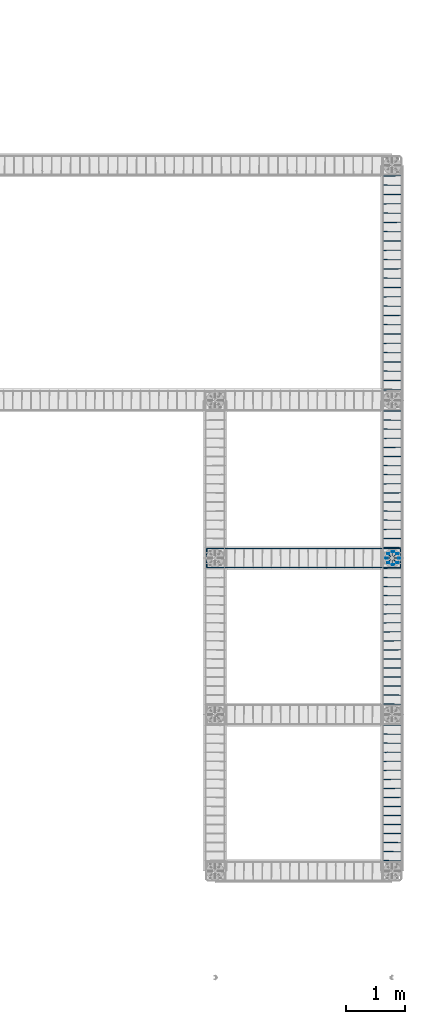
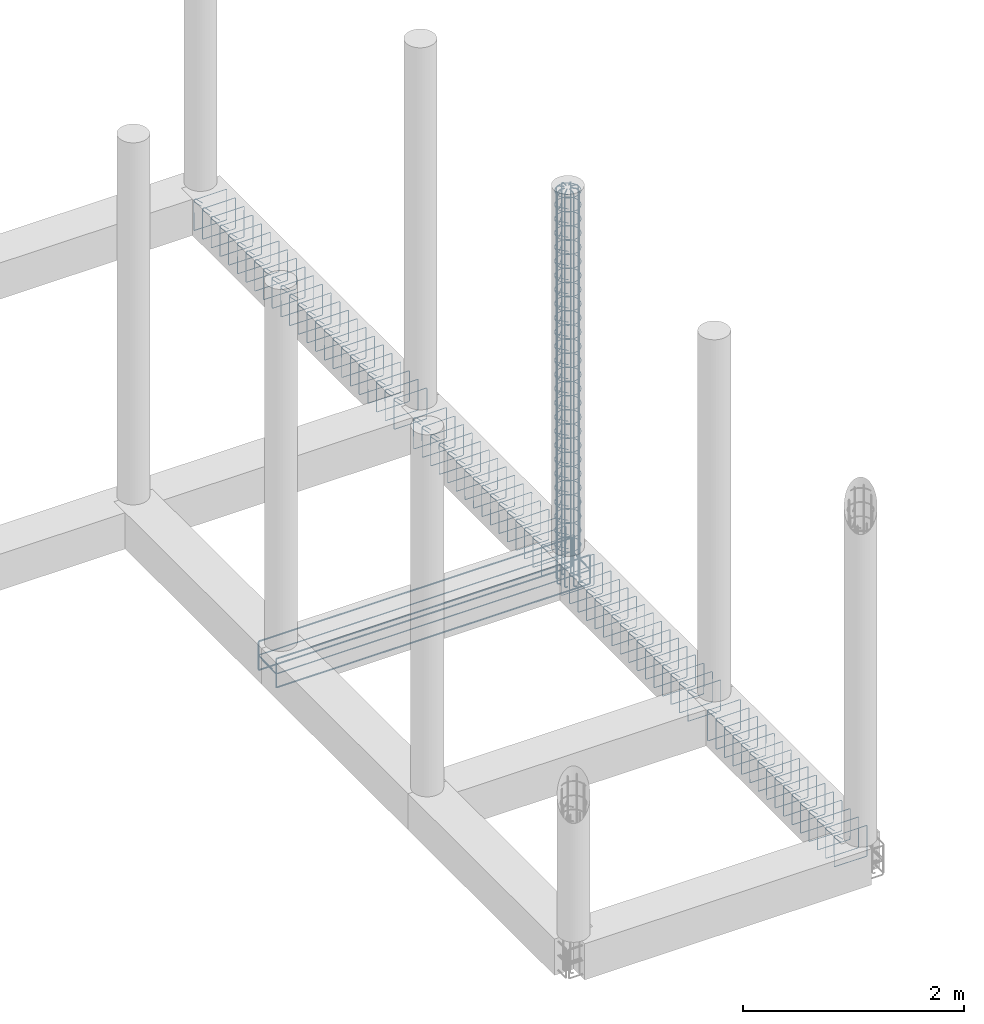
# One storey, part 8 of 20: 7 reinforcing bars.
"""IFC4 building model written with IfcOpenShell, lengths in metres."""

from ifc_helpers import new_model, entity, si_unit, origin_with_axes, place, context, project, spatial, source, transform, mapped, element, save


model = new_model("IFC4")

# Units and contexts
model_context = context("Model", 3, precision=1e-05, world=origin_with_axes())
ifc_project = project(units=[si_unit("LENGTHUNIT", "METRE"), si_unit("AREAUNIT", "SQUARE_METRE"), si_unit("VOLUMEUNIT", "CUBIC_METRE"), si_unit("MASSUNIT", "GRAM", prefix="KILO"), si_unit("TIMEUNIT", "SECOND"), si_unit("PLANEANGLEUNIT", "RADIAN"), si_unit("SOLIDANGLEUNIT", "STERADIAN"), si_unit("THERMODYNAMICTEMPERATUREUNIT", "DEGREE_CELSIUS")], contexts=[model_context])

# Site, building, storey
placement_1 = place(None, origin_with_axes())
site = spatial("IfcSite", under=ifc_project, at=placement_1, Name="Italia", CompositionType="ELEMENT")
building = spatial("IfcBuilding", under=site, at=placement_1, Name="Tettoia", CompositionType="ELEMENT")
storey = spatial("IfcBuildingStorey", under=building, at=placement_1, Name="Storey 0", CompositionType="ELEMENT", Elevation=0.0)

# Reinforcing bars
shared_shape_1 = source(origin_with_axes(), model_context, "Body", "AdvancedSweptSolid", [
    entity("IfcSweptDiskSolid", entity("IfcIndexedPolyCurve", entity("IfcCartesianPointList3D", [[11.211, 7.29605, -0.375], [11.1971, 7.29787, -0.375], [11.191, 7.29869, -0.373761], [11.1857, 7.29938, -0.370231], [11.1822, 7.29984, -0.364948], [11.181, 7.3, -0.358717], [11.181, 7.3, 0.5725]]), [entity("IfcLineIndex", [1, 2]), entity("IfcLineIndex", [2, 3]), entity("IfcLineIndex", [3, 4]), entity("IfcLineIndex", [4, 5]), entity("IfcLineIndex", [5, 6]), entity("IfcLineIndex", [6, 7])], False), 0.007),
])
placement_2 = place(placement_1, origin_with_axes())
reinforcing_bar_1_placement = place(placement_2, origin_with_axes())
element("IfcReinforcingBar", 1, at=reinforcing_bar_1_placement, inside=storey, BarLength=0.97063, CrossSectionArea=0.00015394, NominalDiameter=0.014, context=model_context, shape_type="MappedRepresentation", body=[
    mapped(shared_shape_1, transform((0.218, 0.0, 0.0), x_axis=(1.0, 0.0, 0.0), y_axis=(0.0, 1.0, 0.0), z_axis=(0.0, 0.0, 1.0), scale=1.0)),
    mapped(shared_shape_1, transform((0.0319262, -0.077075, 0.0), x_axis=(1.0, 0.0, 0.0), y_axis=(0.0, 1.0, 0.0), z_axis=(0.0, 0.0, 1.0), scale=1.0)),
    mapped(shared_shape_1, transform((0.109, -0.109, 0.0), x_axis=(1.0, 0.0, 0.0), y_axis=(0.0, 1.0, 0.0), z_axis=(0.0, 0.0, 1.0), scale=1.0)),
    mapped(shared_shape_1, transform((0.18614, -0.0771742, 0.0), x_axis=(1.0, 0.0, 0.0), y_axis=(0.0, 1.0, 0.0), z_axis=(0.0, 0.0, 1.0), scale=1.0)),
    mapped(shared_shape_1, transform((0.0, 0.0, 0.0), x_axis=(1.0, 0.0, 0.0), y_axis=(0.0, 1.0, 0.0), z_axis=(0.0, 0.0, 1.0), scale=1.0)),
    mapped(shared_shape_1, transform((0.031991, 0.0769753, 0.0), x_axis=(1.0, 0.0, 0.0), y_axis=(0.0, 1.0, 0.0), z_axis=(0.0, 0.0, 1.0), scale=1.0)),
    mapped(shared_shape_1, transform((0.108934, 0.1091, 0.0), x_axis=(1.0, 0.0, 0.0), y_axis=(0.0, 1.0, 0.0), z_axis=(0.0, 0.0, 1.0), scale=1.0)),
    mapped(shared_shape_1, transform((0.18614, 0.0769753, 0.0), x_axis=(1.0, 0.0, 0.0), y_axis=(0.0, 1.0, 0.0), z_axis=(0.0, 0.0, 1.0), scale=1.0)),
])
shared_shape_2 = source(origin_with_axes(), model_context, "Body", "AdvancedSweptSolid", [
    entity("IfcSweptDiskSolid", entity("IfcIndexedPolyCurve", entity("IfcCartesianPointList3D", [[11.181, 7.3, 0.0], [11.181, 7.3, 3.94], [11.1837, 7.3, 3.95339], [11.1913, 7.3, 3.96475], [11.2026, 7.3, 3.97234], [11.216, 7.3, 3.975], [11.256, 7.3, 3.975]]), [entity("IfcLineIndex", [1, 2]), entity("IfcLineIndex", [2, 3]), entity("IfcLineIndex", [3, 4]), entity("IfcLineIndex", [4, 5]), entity("IfcLineIndex", [5, 6]), entity("IfcLineIndex", [6, 7])], False), 0.007),
])
reinforcing_bar_2_placement = place(placement_2, origin_with_axes())
element("IfcReinforcingBar", 2, at=reinforcing_bar_2_placement, inside=storey, BarLength=4.03463, CrossSectionArea=0.00015394, NominalDiameter=0.014, context=model_context, shape_type="MappedRepresentation", body=[
    mapped(shared_shape_2, transform((24.4351, 4.47858, 0.0), x_axis=(-0.707104, 0.70711, 0.0), y_axis=(-0.70711, -0.707104, 0.0), z_axis=(0.0, 0.0, 1.0), scale=1.0)),
    mapped(shared_shape_2, transform((22.58, 14.6, 0.0), x_axis=(-1.0, 0.0, 0.0), y_axis=(0.0, -1.0, 0.0), z_axis=(0.0, 0.0, 1.0), scale=1.0)),
    mapped(shared_shape_2, transform((8.46864, -5.84511, 0.0), x_axis=(0.707107, 0.707107, 0.0), y_axis=(-0.707107, 0.707107, 0.0), z_axis=(0.0, 0.0, 1.0), scale=1.0)),
    mapped(shared_shape_2, transform((18.59, -3.99, 0.0), x_axis=(0.0, 1.0, 0.0), y_axis=(-1.0, 0.0, 0.0), z_axis=(0.0, 0.0, 1.0), scale=1.0)),
    mapped(shared_shape_2, transform((-1.85511, 10.1214, 0.0), x_axis=(0.707107, -0.707107, 0.0), y_axis=(0.707107, 0.707107, 0.0), z_axis=(0.0, 0.0, 1.0), scale=1.0)),
    mapped(shared_shape_2, transform((0.0, 0.0, 0.0), x_axis=(1.0, 0.0, 0.0), y_axis=(0.0, 1.0, 0.0), z_axis=(0.0, 0.0, 1.0), scale=1.0)),
    mapped(shared_shape_2, transform((14.1114, 20.4451, 0.0), x_axis=(-0.707107, -0.707107, 0.0), y_axis=(0.707107, -0.707107, 0.0), z_axis=(0.0, 0.0, 1.0), scale=1.0)),
    mapped(shared_shape_2, transform((3.99, 18.59, 0.0), x_axis=(0.0, -1.0, 0.0), y_axis=(1.0, 0.0, 0.0), z_axis=(0.0, 0.0, 1.0), scale=1.0)),
])
shared_shape_3 = source(origin_with_axes(), model_context, "Body", "AdvancedSweptSolid", [
    entity("IfcSweptDiskSolid", entity("IfcIndexedPolyCurve", entity("IfcCartesianPointList3D", [[11.2591, 7.23856, 0.029], [11.1957, 7.31046, 0.029], [11.1888, 7.31383, 0.029], [11.182, 7.31426, 0.029], [11.1781, 7.31374, 0.029], [11.1747, 7.31178, 0.029], [11.1724, 7.30867, 0.029], [11.1714, 7.3049, 0.029], [11.1711, 7.30071, 0.029], [11.1711, 7.29929, 0.029], [11.1725, 7.28218, 0.029], [11.1727, 7.28063, 0.029], [11.1767, 7.26401, 0.029], [11.1772, 7.26252, 0.029], [11.1837, 7.24673, 0.029], [11.1844, 7.24533, 0.029], [11.1934, 7.23076, 0.029], [11.1943, 7.22949, 0.029], [11.2054, 7.21649, 0.029], [11.2065, 7.21538, 0.029], [11.2195, 7.20429, 0.029], [11.2208, 7.20336, 0.029], [11.2353, 7.19443, 0.029], [11.2367, 7.19372, 0.029], [11.2525, 7.18718, 0.029], [11.254, 7.1867, 0.029], [11.2706, 7.18271, 0.029], [11.2722, 7.18246, 0.029], [11.2892, 7.18112, 0.029], [11.2908, 7.18112, 0.029], [11.3078, 7.18246, 0.029], [11.3094, 7.18271, 0.029], [11.326, 7.1867, 0.029], [11.3275, 7.18718, 0.029], [11.3433, 7.19372, 0.029], [11.3447, 7.19443, 0.029], [11.3592, 7.20336, 0.029], [11.3605, 7.20429, 0.029], [11.3735, 7.21538, 0.029], [11.3746, 7.21649, 0.029], [11.3857, 7.22949, 0.029], [11.3866, 7.23076, 0.029], [11.3956, 7.24533, 0.029], [11.3963, 7.24673, 0.029], [11.4028, 7.26252, 0.029], [11.4033, 7.26401, 0.029], [11.4073, 7.28063, 0.029], [11.4075, 7.28218, 0.029], [11.4089, 7.29922, 0.029], [11.4089, 7.30079, 0.029], [11.4075, 7.31782, 0.029], [11.4073, 7.31937, 0.029], [11.4033, 7.33599, 0.029], [11.4028, 7.33748, 0.029], [11.3963, 7.35327, 0.029], [11.3956, 7.35467, 0.029], [11.3866, 7.36924, 0.029], [11.3857, 7.37051, 0.029], [11.3746, 7.38351, 0.029], [11.3735, 7.38462, 0.029], [11.3605, 7.39572, 0.029], [11.3592, 7.39664, 0.029], [11.3447, 7.40557, 0.029], [11.3433, 7.40628, 0.029], [11.3275, 7.41282, 0.029], [11.326, 7.4133, 0.029], [11.3094, 7.41729, 0.029], [11.3078, 7.41754, 0.029], [11.2908, 7.41888, 0.029], [11.2892, 7.41888, 0.029], [11.2722, 7.41754, 0.029], [11.2706, 7.41729, 0.029], [11.254, 7.4133, 0.029], [11.2525, 7.41282, 0.029], [11.2367, 7.40628, 0.029], [11.2353, 7.40557, 0.029], [11.2208, 7.39664, 0.029], [11.2195, 7.39572, 0.029], [11.2065, 7.38462, 0.029], [11.2054, 7.38351, 0.029], [11.1943, 7.37051, 0.029], [11.1934, 7.36924, 0.029], [11.1844, 7.35467, 0.029], [11.1837, 7.35327, 0.029], [11.1772, 7.33748, 0.029], [11.1767, 7.33599, 0.029], [11.1727, 7.31937, 0.029], [11.1725, 7.31782, 0.029], [11.1711, 7.30071, 0.029], [11.1711, 7.29929, 0.029], [11.1714, 7.2951, 0.029], [11.1724, 7.29133, 0.029], [11.1747, 7.28822, 0.029], [11.1781, 7.28626, 0.029], [11.182, 7.28574, 0.029], [11.1888, 7.28617, 0.029], [11.1957, 7.28954, 0.029], [11.2591, 7.36144, 0.029]]), [entity("IfcLineIndex", [1, 2]), entity("IfcLineIndex", [2, 3]), entity("IfcLineIndex", [3, 4]), entity("IfcLineIndex", [4, 5]), entity("IfcLineIndex", [5, 6]), entity("IfcLineIndex", [6, 7]), entity("IfcLineIndex", [7, 8]), entity("IfcLineIndex", [8, 9]), entity("IfcLineIndex", [9, 10]), entity("IfcLineIndex", [10, 11]), entity("IfcLineIndex", [11, 12]), entity("IfcLineIndex", [12, 13]), entity("IfcLineIndex", [13, 14]), entity("IfcLineIndex", [14, 15]), entity("IfcLineIndex", [15, 16]), entity("IfcLineIndex", [16, 17]), entity("IfcLineIndex", [17, 18]), entity("IfcLineIndex", [18, 19]), entity("IfcLineIndex", [19, 20]), entity("IfcLineIndex", [20, 21]), entity("IfcLineIndex", [21, 22]), entity("IfcLineIndex", [22, 23]), entity("IfcLineIndex", [23, 24]), entity("IfcLineIndex", [24, 25]), entity("IfcLineIndex", [25, 26]), entity("IfcLineIndex", [26, 27]), entity("IfcLineIndex", [27, 28]), entity("IfcLineIndex", [28, 29]), entity("IfcLineIndex", [29, 30]), entity("IfcLineIndex", [30, 31]), entity("IfcLineIndex", [31, 32]), entity("IfcLineIndex", [32, 33]), entity("IfcLineIndex", [33, 34]), entity("IfcLineIndex", [34, 35]), entity("IfcLineIndex", [35, 36]), entity("IfcLineIndex", [36, 37]), entity("IfcLineIndex", [37, 38]), entity("IfcLineIndex", [38, 39]), entity("IfcLineIndex", [39, 40]), entity("IfcLineIndex", [40, 41]), entity("IfcLineIndex", [41, 42]), entity("IfcLineIndex", [42, 43]), entity("IfcLineIndex", [43, 44]), entity("IfcLineIndex", [44, 45]), entity("IfcLineIndex", [45, 46]), entity("IfcLineIndex", [46, 47]), entity("IfcLineIndex", [47, 48]), entity("IfcLineIndex", [48, 49]), entity("IfcLineIndex", [49, 50]), entity("IfcLineIndex", [50, 51]), entity("IfcLineIndex", [51, 52]), entity("IfcLineIndex", [52, 53]), entity("IfcLineIndex", [53, 54]), entity("IfcLineIndex", [54, 55]), entity("IfcLineIndex", [55, 56]), entity("IfcLineIndex", [56, 57]), entity("IfcLineIndex", [57, 58]), entity("IfcLineIndex", [58, 59]), entity("IfcLineIndex", [59, 60]), entity("IfcLineIndex", [60, 61]), entity("IfcLineIndex", [61, 62]), entity("IfcLineIndex", [62, 63]), entity("IfcLineIndex", [63, 64]), entity("IfcLineIndex", [64, 65]), entity("IfcLineIndex", [65, 66]), entity("IfcLineIndex", [66, 67]), entity("IfcLineIndex", [67, 68]), entity("IfcLineIndex", [68, 69]), entity("IfcLineIndex", [69, 70]), entity("IfcLineIndex", [70, 71]), entity("IfcLineIndex", [71, 72]), entity("IfcLineIndex", [72, 73]), entity("IfcLineIndex", [73, 74]), entity("IfcLineIndex", [74, 75]), entity("IfcLineIndex", [75, 76]), entity("IfcLineIndex", [76, 77]), entity("IfcLineIndex", [77, 78]), entity("IfcLineIndex", [78, 79]), entity("IfcLineIndex", [79, 80]), entity("IfcLineIndex", [80, 81]), entity("IfcLineIndex", [81, 82]), entity("IfcLineIndex", [82, 83]), entity("IfcLineIndex", [83, 84]), entity("IfcLineIndex", [84, 85]), entity("IfcLineIndex", [85, 86]), entity("IfcLineIndex", [86, 87]), entity("IfcLineIndex", [87, 88]), entity("IfcLineIndex", [88, 89]), entity("IfcLineIndex", [89, 90]), entity("IfcLineIndex", [90, 91]), entity("IfcLineIndex", [91, 92]), entity("IfcLineIndex", [92, 93]), entity("IfcLineIndex", [93, 94]), entity("IfcLineIndex", [94, 95]), entity("IfcLineIndex", [95, 96]), entity("IfcLineIndex", [96, 97]), entity("IfcLineIndex", [97, 98])], False), 0.004),
])
reinforcing_bar_3_placement = place(placement_2, origin_with_axes())
element("IfcReinforcingBar", 3, at=reinforcing_bar_3_placement, inside=storey, BarLength=1.00815, CrossSectionArea=5.0265e-05, NominalDiameter=0.008, context=model_context, shape_type="MappedRepresentation", body=[
    mapped(shared_shape_3, transform((0.0, 0.0, 1.8768), x_axis=(1.0, 0.0, 0.0), y_axis=(0.0, 1.0, 0.0), z_axis=(0.0, 0.0, 1.0), scale=1.0)),
    mapped(shared_shape_3, transform((0.0, 0.0, 1.7204), x_axis=(1.0, 0.0, 0.0), y_axis=(0.0, 1.0, 0.0), z_axis=(0.0, 0.0, 1.0), scale=1.0)),
    mapped(shared_shape_3, transform((0.0, 0.0, 1.0948), x_axis=(1.0, 0.0, 0.0), y_axis=(0.0, 1.0, 0.0), z_axis=(0.0, 0.0, 1.0), scale=1.0)),
    mapped(shared_shape_3, transform((0.0, 0.0, 1.4076), x_axis=(1.0, 0.0, 0.0), y_axis=(0.0, 1.0, 0.0), z_axis=(0.0, 0.0, 1.0), scale=1.0)),
    mapped(shared_shape_3, transform((0.0, 0.0, 1.2512), x_axis=(1.0, 0.0, 0.0), y_axis=(0.0, 1.0, 0.0), z_axis=(0.0, 0.0, 1.0), scale=1.0)),
    mapped(shared_shape_3, transform((0.0, 0.0, 1.564), x_axis=(1.0, 0.0, 0.0), y_axis=(0.0, 1.0, 0.0), z_axis=(0.0, 0.0, 1.0), scale=1.0)),
    mapped(shared_shape_3, transform((0.0, 0.0, 0.9384), x_axis=(1.0, 0.0, 0.0), y_axis=(0.0, 1.0, 0.0), z_axis=(0.0, 0.0, 1.0), scale=1.0)),
    mapped(shared_shape_3, transform((0.0, 0.0, 0.782), x_axis=(1.0, 0.0, 0.0), y_axis=(0.0, 1.0, 0.0), z_axis=(0.0, 0.0, 1.0), scale=1.0)),
    mapped(shared_shape_3, transform((0.0, 0.0, 0.1564), x_axis=(1.0, 0.0, 0.0), y_axis=(0.0, 1.0, 0.0), z_axis=(0.0, 0.0, 1.0), scale=1.0)),
    mapped(shared_shape_3, transform((0.0, 0.0, 0.4692), x_axis=(1.0, 0.0, 0.0), y_axis=(0.0, 1.0, 0.0), z_axis=(0.0, 0.0, 1.0), scale=1.0)),
    mapped(shared_shape_3, transform((0.0, 0.0, 0.3128), x_axis=(1.0, 0.0, 0.0), y_axis=(0.0, 1.0, 0.0), z_axis=(0.0, 0.0, 1.0), scale=1.0)),
    mapped(shared_shape_3, transform((0.0, 0.0, 0.6256), x_axis=(1.0, 0.0, 0.0), y_axis=(0.0, 1.0, 0.0), z_axis=(0.0, 0.0, 1.0), scale=1.0)),
    mapped(shared_shape_3, transform((0.0, 0.0, 0.0), x_axis=(1.0, 0.0, 0.0), y_axis=(0.0, 1.0, 0.0), z_axis=(0.0, 0.0, 1.0), scale=1.0)),
    mapped(shared_shape_3, transform((0.0, 0.0, 3.91), x_axis=(1.0, 0.0, 0.0), y_axis=(0.0, 1.0, 0.0), z_axis=(0.0, 0.0, 1.0), scale=1.0)),
    mapped(shared_shape_3, transform((0.0, 0.0, 3.2844), x_axis=(1.0, 0.0, 0.0), y_axis=(0.0, 1.0, 0.0), z_axis=(0.0, 0.0, 1.0), scale=1.0)),
    mapped(shared_shape_3, transform((0.0, 0.0, 3.5972), x_axis=(1.0, 0.0, 0.0), y_axis=(0.0, 1.0, 0.0), z_axis=(0.0, 0.0, 1.0), scale=1.0)),
    mapped(shared_shape_3, transform((0.0, 0.0, 3.4408), x_axis=(1.0, 0.0, 0.0), y_axis=(0.0, 1.0, 0.0), z_axis=(0.0, 0.0, 1.0), scale=1.0)),
    mapped(shared_shape_3, transform((0.0, 0.0, 3.7536), x_axis=(1.0, 0.0, 0.0), y_axis=(0.0, 1.0, 0.0), z_axis=(0.0, 0.0, 1.0), scale=1.0)),
    mapped(shared_shape_3, transform((0.0, 0.0, 3.128), x_axis=(1.0, 0.0, 0.0), y_axis=(0.0, 1.0, 0.0), z_axis=(0.0, 0.0, 1.0), scale=1.0)),
    mapped(shared_shape_3, transform((0.0, 0.0, 2.9716), x_axis=(1.0, 0.0, 0.0), y_axis=(0.0, 1.0, 0.0), z_axis=(0.0, 0.0, 1.0), scale=1.0)),
    mapped(shared_shape_3, transform((0.0, 0.0, 2.346), x_axis=(1.0, 0.0, 0.0), y_axis=(0.0, 1.0, 0.0), z_axis=(0.0, 0.0, 1.0), scale=1.0)),
    mapped(shared_shape_3, transform((0.0, 0.0, 2.6588), x_axis=(1.0, 0.0, 0.0), y_axis=(0.0, 1.0, 0.0), z_axis=(0.0, 0.0, 1.0), scale=1.0)),
    mapped(shared_shape_3, transform((0.0, 0.0, 2.5024), x_axis=(1.0, 0.0, 0.0), y_axis=(0.0, 1.0, 0.0), z_axis=(0.0, 0.0, 1.0), scale=1.0)),
    mapped(shared_shape_3, transform((0.0, 0.0, 2.8152), x_axis=(1.0, 0.0, 0.0), y_axis=(0.0, 1.0, 0.0), z_axis=(0.0, 0.0, 1.0), scale=1.0)),
    mapped(shared_shape_3, transform((0.0, 0.0, 2.1896), x_axis=(1.0, 0.0, 0.0), y_axis=(0.0, 1.0, 0.0), z_axis=(0.0, 0.0, 1.0), scale=1.0)),
    mapped(shared_shape_3, transform((0.0, 0.0, 2.0332), x_axis=(1.0, 0.0, 0.0), y_axis=(0.0, 1.0, 0.0), z_axis=(0.0, 0.0, 1.0), scale=1.0)),
])
shared_shape_4 = source(origin_with_axes(), model_context, "Body", "AdvancedSweptSolid", [
    entity("IfcSweptDiskSolid", entity("IfcIndexedPolyCurve", entity("IfcCartesianPointList3D", [[8.15, 7.211, -0.194], [8.15, 7.451, -0.194], [8.15076, 7.45483, -0.194], [8.15293, 7.45807, -0.194], [8.15617, 7.46024, -0.194], [8.16, 7.461, -0.194], [11.42, 7.461, -0.194], [11.4238, 7.46024, -0.194], [11.4271, 7.45807, -0.194], [11.4292, 7.45483, -0.194], [11.43, 7.451, -0.194], [11.43, 7.211, -0.194]]), [entity("IfcLineIndex", [1, 2]), entity("IfcLineIndex", [2, 3]), entity("IfcLineIndex", [3, 4]), entity("IfcLineIndex", [4, 5]), entity("IfcLineIndex", [5, 6]), entity("IfcLineIndex", [6, 7]), entity("IfcLineIndex", [7, 8]), entity("IfcLineIndex", [8, 9]), entity("IfcLineIndex", [9, 10]), entity("IfcLineIndex", [10, 11]), entity("IfcLineIndex", [11, 12])], False), 0.006),
])
reinforcing_bar_4_placement = place(placement_2, origin_with_axes())
element("IfcReinforcingBar", 4, at=reinforcing_bar_4_placement, inside=storey, BarLength=3.77121, CrossSectionArea=0.0001131, NominalDiameter=0.012, context=model_context, shape_type="MappedRepresentation", body=[
    mapped(shared_shape_4, transform((0.0, 14.6, -0.4), x_axis=(1.0, 0.0, 0.0), y_axis=(0.0, -1.0, 0.0), z_axis=(0.0, 0.0, -1.0), scale=1.0)),
    mapped(shared_shape_4, transform((0.0, 0.0, 0.0), x_axis=(1.0, 0.0, 0.0), y_axis=(0.0, 1.0, 0.0), z_axis=(0.0, 0.0, 1.0), scale=1.0)),
])
shared_shape_5 = source(origin_with_axes(), model_context, "Body", "AdvancedSweptSolid", [
    entity("IfcSweptDiskSolid", entity("IfcIndexedPolyCurve", entity("IfcCartesianPointList3D", [[9.20727, 7.141, -0.359], [9.79, 7.141, -0.359], [11.29, 7.141, -0.359], [11.42, 7.141, -0.359], [11.4238, 7.141, -0.358239], [11.4271, 7.141, -0.356071], [11.4292, 7.141, -0.352827], [11.43, 7.141, -0.349], [11.43, 7.141, -0.109]]), [entity("IfcLineIndex", [1, 2]), entity("IfcLineIndex", [2, 3]), entity("IfcLineIndex", [3, 4]), entity("IfcLineIndex", [4, 5]), entity("IfcLineIndex", [5, 6]), entity("IfcLineIndex", [6, 7]), entity("IfcLineIndex", [7, 8]), entity("IfcLineIndex", [8, 9])], False), 0.008),
])
reinforcing_bar_5_placement = place(placement_2, origin_with_axes())
element("IfcReinforcingBar", 5, at=reinforcing_bar_5_placement, inside=storey, BarLength=2.46833, CrossSectionArea=0.00020106, NominalDiameter=0.016, context=model_context, shape_type="MappedRepresentation", body=[
    mapped(shared_shape_5, transform((0.0, 0.318, 0.0), x_axis=(1.0, 0.0, 0.0), y_axis=(0.0, 1.0, 0.0), z_axis=(0.0, 0.0, 1.0), scale=1.0)),
    mapped(shared_shape_5, transform((0.0, 0.0, 0.0), x_axis=(1.0, 0.0, 0.0), y_axis=(0.0, 1.0, 0.0), z_axis=(0.0, 0.0, 1.0), scale=1.0)),
    mapped(shared_shape_5, transform((0.0, 14.6, -0.4), x_axis=(1.0, 0.0, 0.0), y_axis=(0.0, -1.0, 0.0), z_axis=(0.0, 0.0, -1.0), scale=1.0)),
    mapped(shared_shape_5, transform((0.0, 14.282, -0.4), x_axis=(1.0, 0.0, 0.0), y_axis=(0.0, -1.0, 0.0), z_axis=(0.0, 0.0, -1.0), scale=1.0)),
])
shared_shape_6 = source(origin_with_axes(), model_context, "Body", "AdvancedSweptSolid", [
    entity("IfcSweptDiskSolid", entity("IfcIndexedPolyCurve", entity("IfcCartesianPointList3D", [[8.15, 7.141, -0.109], [8.15, 7.141, -0.349], [8.15076, 7.141, -0.352827], [8.15293, 7.141, -0.356071], [8.15617, 7.141, -0.358239], [8.16, 7.141, -0.359], [8.29, 7.141, -0.359], [9.79, 7.141, -0.359], [10.3727, 7.141, -0.359]]), [entity("IfcLineIndex", [1, 2]), entity("IfcLineIndex", [2, 3]), entity("IfcLineIndex", [3, 4]), entity("IfcLineIndex", [4, 5]), entity("IfcLineIndex", [5, 6]), entity("IfcLineIndex", [6, 7]), entity("IfcLineIndex", [7, 8]), entity("IfcLineIndex", [8, 9])], False), 0.008),
])
reinforcing_bar_6_placement = place(placement_2, origin_with_axes())
element("IfcReinforcingBar", 6, at=reinforcing_bar_6_placement, inside=storey, BarLength=2.46833, CrossSectionArea=0.00020106, NominalDiameter=0.016, context=model_context, shape_type="MappedRepresentation", body=[
    mapped(shared_shape_6, transform((0.0, 0.318001, 0.0), x_axis=(1.0, 0.0, 0.0), y_axis=(0.0, 1.0, 0.0), z_axis=(0.0, 0.0, 1.0), scale=1.0)),
    mapped(shared_shape_6, transform((0.0, 0.0, 0.0), x_axis=(1.0, 0.0, 0.0), y_axis=(0.0, 1.0, 0.0), z_axis=(0.0, 0.0, 1.0), scale=1.0)),
    mapped(shared_shape_6, transform((0.0, 14.6, -0.4), x_axis=(1.0, 0.0, 0.0), y_axis=(0.0, -1.0, 0.0), z_axis=(0.0, 0.0, -1.0), scale=1.0)),
    mapped(shared_shape_6, transform((0.0, 14.282, -0.4), x_axis=(1.0, 0.0, 0.0), y_axis=(0.0, -1.0, 0.0), z_axis=(0.0, 0.0, -1.0), scale=1.0)),
])
shared_shape_7 = source(origin_with_axes(), model_context, "Body", "AdvancedSweptSolid", [
    entity("IfcSweptDiskSolid", entity("IfcIndexedPolyCurve", entity("IfcCartesianPointList3D", [[11.1897, 2.175, -0.120711], [11.1219, 2.17556, -0.0529289], [11.119, 2.1756, -0.0458579], [11.119, 2.17564, -0.039], [11.1198, 2.17566, -0.0351732], [11.1219, 2.17569, -0.0319289], [11.1252, 2.17571, -0.0297612], [11.129, 2.17573, -0.029], [11.451, 2.1776, -0.029], [11.4548, 2.17762, -0.0297612], [11.4581, 2.17764, -0.0319289], [11.4602, 2.17767, -0.0351732], [11.461, 2.17769, -0.039], [11.461, 2.17956, -0.361], [11.4602, 2.17958, -0.364827], [11.4581, 2.1796, -0.368071], [11.4548, 2.17962, -0.370239], [11.451, 2.17965, -0.371], [11.129, 2.18151, -0.371], [11.1252, 2.18154, -0.370239], [11.1219, 2.18156, -0.368071], [11.1198, 2.18158, -0.364827], [11.119, 2.1816, -0.361], [11.119, 2.18347, -0.039], [11.1198, 2.18349, -0.0351732], [11.1219, 2.18352, -0.0319289], [11.1252, 2.18354, -0.0297612], [11.129, 2.18356, -0.029], [11.1359, 2.1836, -0.029], [11.1429, 2.18364, -0.0319289], [11.2107, 2.1842, -0.0997114]]), [entity("IfcLineIndex", [1, 2]), entity("IfcLineIndex", [2, 3]), entity("IfcLineIndex", [3, 4]), entity("IfcLineIndex", [4, 5]), entity("IfcLineIndex", [5, 6]), entity("IfcLineIndex", [6, 7]), entity("IfcLineIndex", [7, 8]), entity("IfcLineIndex", [8, 9]), entity("IfcLineIndex", [9, 10]), entity("IfcLineIndex", [10, 11]), entity("IfcLineIndex", [11, 12]), entity("IfcLineIndex", [12, 13]), entity("IfcLineIndex", [13, 14]), entity("IfcLineIndex", [14, 15]), entity("IfcLineIndex", [15, 16]), entity("IfcLineIndex", [16, 17]), entity("IfcLineIndex", [17, 18]), entity("IfcLineIndex", [18, 19]), entity("IfcLineIndex", [19, 20]), entity("IfcLineIndex", [20, 21]), entity("IfcLineIndex", [21, 22]), entity("IfcLineIndex", [22, 23]), entity("IfcLineIndex", [23, 24]), entity("IfcLineIndex", [24, 25]), entity("IfcLineIndex", [25, 26]), entity("IfcLineIndex", [26, 27]), entity("IfcLineIndex", [27, 28]), entity("IfcLineIndex", [28, 29]), entity("IfcLineIndex", [29, 30]), entity("IfcLineIndex", [30, 31])], False), 0.004),
])
reinforcing_bar_7_placement = place(placement_2, origin_with_axes())
element("IfcReinforcingBar", 7, at=reinforcing_bar_7_placement, inside=storey, BarLength=1.5868, CrossSectionArea=5.0265e-05, NominalDiameter=0.008, context=model_context, shape_type="MappedRepresentation", body=[
    mapped(shared_shape_7, transform((-1.43051e-05, 3.87247, 0.0), x_axis=(1.0, 0.0, 0.0), y_axis=(0.0, 1.0, 0.0), z_axis=(0.0, 0.0, 1.0), scale=1.0)),
    mapped(shared_shape_7, transform((-1.43051e-05, 3.71967, 0.0), x_axis=(1.0, 0.0, 0.0), y_axis=(0.0, 1.0, 0.0), z_axis=(0.0, 0.0, 1.0), scale=1.0)),
    mapped(shared_shape_7, transform((-1.43051e-05, 4.17807, 0.0), x_axis=(1.0, 0.0, 0.0), y_axis=(0.0, 1.0, 0.0), z_axis=(0.0, 0.0, 1.0), scale=1.0)),
    mapped(shared_shape_7, transform((-1.43051e-05, 4.02527, 0.0), x_axis=(1.0, 0.0, 0.0), y_axis=(0.0, 1.0, 0.0), z_axis=(0.0, 0.0, 1.0), scale=1.0)),
    mapped(shared_shape_7, transform((-1.43051e-05, 3.26127, 0.0), x_axis=(1.0, 0.0, 0.0), y_axis=(0.0, 1.0, 0.0), z_axis=(0.0, 0.0, 1.0), scale=1.0)),
    mapped(shared_shape_7, transform((-1.43051e-05, 3.10847, 0.0), x_axis=(1.0, 0.0, 0.0), y_axis=(0.0, 1.0, 0.0), z_axis=(0.0, 0.0, 1.0), scale=1.0)),
    mapped(shared_shape_7, transform((-1.43051e-05, 3.56687, 0.0), x_axis=(1.0, 0.0, 0.0), y_axis=(0.0, 1.0, 0.0), z_axis=(0.0, 0.0, 1.0), scale=1.0)),
    mapped(shared_shape_7, transform((-1.43051e-05, 3.41407, 0.0), x_axis=(1.0, 0.0, 0.0), y_axis=(0.0, 1.0, 0.0), z_axis=(0.0, 0.0, 1.0), scale=1.0)),
    mapped(shared_shape_7, transform((-1.43051e-05, 5.60833, 0.0), x_axis=(1.0, 0.0, 0.0), y_axis=(0.0, 1.0, 0.0), z_axis=(0.0, 0.0, 1.0), scale=1.0)),
    mapped(shared_shape_7, transform((-1.43051e-05, 5.4542, 0.0), x_axis=(1.0, 0.0, 0.0), y_axis=(0.0, 1.0, 0.0), z_axis=(0.0, 0.0, 1.0), scale=1.0)),
    mapped(shared_shape_7, transform((-1.43051e-05, 2.95567, 0.0), x_axis=(1.0, 0.0, 0.0), y_axis=(0.0, 1.0, 0.0), z_axis=(0.0, 0.0, 1.0), scale=1.0)),
    mapped(shared_shape_7, transform((-1.43051e-05, 5.76247, 0.0), x_axis=(1.0, 0.0, 0.0), y_axis=(0.0, 1.0, 0.0), z_axis=(0.0, 0.0, 1.0), scale=1.0)),
    mapped(shared_shape_7, transform((-1.43051e-05, 4.78927, 0.0), x_axis=(1.0, 0.0, 0.0), y_axis=(0.0, 1.0, 0.0), z_axis=(0.0, 0.0, 1.0), scale=1.0)),
    mapped(shared_shape_7, transform((-1.43051e-05, 4.63647, 0.0), x_axis=(1.0, 0.0, 0.0), y_axis=(0.0, 1.0, 0.0), z_axis=(0.0, 0.0, 1.0), scale=1.0)),
    mapped(shared_shape_7, transform((-1.43051e-05, 5.30007, 0.0), x_axis=(1.0, 0.0, 0.0), y_axis=(0.0, 1.0, 0.0), z_axis=(0.0, 0.0, 1.0), scale=1.0)),
    mapped(shared_shape_7, transform((-1.43051e-05, 4.94207, 0.0), x_axis=(1.0, 0.0, 0.0), y_axis=(0.0, 1.0, 0.0), z_axis=(0.0, 0.0, 1.0), scale=1.0)),
    mapped(shared_shape_7, transform((0.0, 1.2224, 0.0), x_axis=(1.0, 0.0, 0.0), y_axis=(0.0, 1.0, 0.0), z_axis=(0.0, 0.0, 1.0), scale=1.0)),
    mapped(shared_shape_7, transform((0.0, 1.0696, 0.0), x_axis=(1.0, 0.0, 0.0), y_axis=(0.0, 1.0, 0.0), z_axis=(0.0, 0.0, 1.0), scale=1.0)),
    mapped(shared_shape_7, transform((-1.43051e-05, 4.48367, 0.0), x_axis=(1.0, 0.0, 0.0), y_axis=(0.0, 1.0, 0.0), z_axis=(0.0, 0.0, 1.0), scale=1.0)),
    mapped(shared_shape_7, transform((-1.43051e-05, 4.33087, 0.0), x_axis=(1.0, 0.0, 0.0), y_axis=(0.0, 1.0, 0.0), z_axis=(0.0, 0.0, 1.0), scale=1.0)),
    mapped(shared_shape_7, transform((0.0, 0.6112, 0.0), x_axis=(1.0, 0.0, 0.0), y_axis=(0.0, 1.0, 0.0), z_axis=(0.0, 0.0, 1.0), scale=1.0)),
    mapped(shared_shape_7, transform((0.0, 0.4584, 0.0), x_axis=(1.0, 0.0, 0.0), y_axis=(0.0, 1.0, 0.0), z_axis=(0.0, 0.0, 1.0), scale=1.0)),
    mapped(shared_shape_7, transform((0.0, 0.9168, 0.0), x_axis=(1.0, 0.0, 0.0), y_axis=(0.0, 1.0, 0.0), z_axis=(0.0, 0.0, 1.0), scale=1.0)),
    mapped(shared_shape_7, transform((0.0, 0.764, 0.0), x_axis=(1.0, 0.0, 0.0), y_axis=(0.0, 1.0, 0.0), z_axis=(0.0, 0.0, 1.0), scale=1.0)),
    mapped(shared_shape_7, transform((0.0, 0.0, 0.0), x_axis=(1.0, 0.0, 0.0), y_axis=(0.0, 1.0, 0.0), z_axis=(0.0, 0.0, 1.0), scale=1.0)),
    mapped(shared_shape_7, transform((-1.43051e-05, 2.80287, 0.0), x_axis=(1.0, 0.0, 0.0), y_axis=(0.0, 1.0, 0.0), z_axis=(0.0, 0.0, 1.0), scale=1.0)),
    mapped(shared_shape_7, transform((0.0, 0.305599, 0.0), x_axis=(1.0, 0.0, 0.0), y_axis=(0.0, 1.0, 0.0), z_axis=(0.0, 0.0, 1.0), scale=1.0)),
    mapped(shared_shape_7, transform((0.0, 0.1528, 0.0), x_axis=(1.0, 0.0, 0.0), y_axis=(0.0, 1.0, 0.0), z_axis=(0.0, 0.0, 1.0), scale=1.0)),
    mapped(shared_shape_7, transform((-1.43051e-05, 2.13927, 0.0), x_axis=(1.0, 0.0, 0.0), y_axis=(0.0, 1.0, 0.0), z_axis=(0.0, 0.0, 1.0), scale=1.0)),
    mapped(shared_shape_7, transform((-1.43051e-05, 1.98647, 0.0), x_axis=(1.0, 0.0, 0.0), y_axis=(0.0, 1.0, 0.0), z_axis=(0.0, 0.0, 1.0), scale=1.0)),
    mapped(shared_shape_7, transform((-1.43051e-05, 2.65007, 0.0), x_axis=(1.0, 0.0, 0.0), y_axis=(0.0, 1.0, 0.0), z_axis=(0.0, 0.0, 1.0), scale=1.0)),
    mapped(shared_shape_7, transform((-1.43051e-05, 2.29207, 0.0), x_axis=(1.0, 0.0, 0.0), y_axis=(0.0, 1.0, 0.0), z_axis=(0.0, 0.0, 1.0), scale=1.0)),
    mapped(shared_shape_7, transform((0.0, 1.528, 0.0), x_axis=(1.0, 0.0, 0.0), y_axis=(0.0, 1.0, 0.0), z_axis=(0.0, 0.0, 1.0), scale=1.0)),
    mapped(shared_shape_7, transform((0.0, 1.3752, 0.0), x_axis=(1.0, 0.0, 0.0), y_axis=(0.0, 1.0, 0.0), z_axis=(0.0, 0.0, 1.0), scale=1.0)),
    mapped(shared_shape_7, transform((-1.43051e-05, 1.83367, 0.0), x_axis=(1.0, 0.0, 0.0), y_axis=(0.0, 1.0, 0.0), z_axis=(0.0, 0.0, 1.0), scale=1.0)),
    mapped(shared_shape_7, transform((0.0, 1.6808, 0.0), x_axis=(1.0, 0.0, 0.0), y_axis=(0.0, 1.0, 0.0), z_axis=(0.0, 0.0, 1.0), scale=1.0)),
    mapped(shared_shape_7, transform((0.000288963, 9.85826, 0.000278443), x_axis=(1.0, 0.000133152, 0.0), y_axis=(-0.000133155, 1.0, -0.000122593), z_axis=(0.0, 0.000122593, 1.0), scale=1.0)),
    mapped(shared_shape_7, transform((0.000288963, 9.70079, 0.000278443), x_axis=(1.0, 0.000133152, 0.0), y_axis=(-0.000133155, 1.0, -0.000122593), z_axis=(0.0, 0.000122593, 1.0), scale=1.0)),
    mapped(shared_shape_7, transform((0.000288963, 10.1732, 0.000278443), x_axis=(1.0, 0.000133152, 0.0), y_axis=(-0.000133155, 1.0, -0.000122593), z_axis=(0.0, 0.000122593, 1.0), scale=1.0)),
    mapped(shared_shape_7, transform((0.000288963, 10.0157, 0.000278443), x_axis=(1.0, 0.000133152, 0.0), y_axis=(-0.000133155, 1.0, -0.000122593), z_axis=(0.0, 0.000122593, 1.0), scale=1.0)),
    mapped(shared_shape_7, transform((0.000288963, 9.22835, 0.000278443), x_axis=(1.0, 0.000133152, 0.0), y_axis=(-0.000133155, 1.0, -0.000122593), z_axis=(0.0, 0.000122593, 1.0), scale=1.0)),
    mapped(shared_shape_7, transform((0.000288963, 9.07087, 0.000278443), x_axis=(1.0, 0.000133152, 0.0), y_axis=(-0.000133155, 1.0, -0.000122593), z_axis=(0.0, 0.000122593, 1.0), scale=1.0)),
    mapped(shared_shape_7, transform((0.000288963, 9.54331, 0.000278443), x_axis=(1.0, 0.000133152, 0.0), y_axis=(-0.000133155, 1.0, -0.000122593), z_axis=(0.0, 0.000122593, 1.0), scale=1.0)),
    mapped(shared_shape_7, transform((0.000288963, 9.38583, 0.000278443), x_axis=(1.0, 0.000133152, 0.0), y_axis=(-0.000133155, 1.0, -0.000122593), z_axis=(0.0, 0.000122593, 1.0), scale=1.0)),
    mapped(shared_shape_7, transform((0.000288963, 11.433, 0.000278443), x_axis=(1.0, 0.000133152, 0.0), y_axis=(-0.000133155, 1.0, -0.000122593), z_axis=(0.0, 0.000122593, 1.0), scale=1.0)),
    mapped(shared_shape_7, transform((0.000288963, 11.2756, 0.000278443), x_axis=(1.0, 0.000133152, 0.0), y_axis=(-0.000133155, 1.0, -0.000122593), z_axis=(0.0, 0.000122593, 1.0), scale=1.0)),
    mapped(shared_shape_7, transform((0.000288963, 8.91339, 0.000278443), x_axis=(1.0, 0.000133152, 0.0), y_axis=(-0.000133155, 1.0, -0.000122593), z_axis=(0.0, 0.000122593, 1.0), scale=1.0)),
    mapped(shared_shape_7, transform((0.000288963, 11.5905, 0.000278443), x_axis=(1.0, 0.000133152, 0.0), y_axis=(-0.000133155, 1.0, -0.000122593), z_axis=(0.0, 0.000122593, 1.0), scale=1.0)),
    mapped(shared_shape_7, transform((0.000288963, 10.8031, 0.000278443), x_axis=(1.0, 0.000133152, 0.0), y_axis=(-0.000133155, 1.0, -0.000122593), z_axis=(0.0, 0.000122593, 1.0), scale=1.0)),
    mapped(shared_shape_7, transform((0.000288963, 10.6457, 0.000278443), x_axis=(1.0, 0.000133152, 0.0), y_axis=(-0.000133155, 1.0, -0.000122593), z_axis=(0.0, 0.000122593, 1.0), scale=1.0)),
    mapped(shared_shape_7, transform((0.000288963, 11.1181, 0.000278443), x_axis=(1.0, 0.000133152, 0.0), y_axis=(-0.000133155, 1.0, -0.000122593), z_axis=(0.0, 0.000122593, 1.0), scale=1.0)),
    mapped(shared_shape_7, transform((0.000288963, 10.9606, 0.000278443), x_axis=(1.0, 0.000133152, 0.0), y_axis=(-0.000133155, 1.0, -0.000122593), z_axis=(0.0, 0.000122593, 1.0), scale=1.0)),
    mapped(shared_shape_7, transform((0.000288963, 7.14812, 0.000278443), x_axis=(1.0, 0.000133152, 0.0), y_axis=(-0.000133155, 1.0, -0.000122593), z_axis=(0.0, 0.000122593, 1.0), scale=1.0)),
    mapped(shared_shape_7, transform((0.000288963, 6.99399, 0.000278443), x_axis=(1.0, 0.000133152, 0.0), y_axis=(-0.000133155, 1.0, -0.000122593), z_axis=(0.0, 0.000122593, 1.0), scale=1.0)),
    mapped(shared_shape_7, transform((0.000288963, 10.4882, 0.000278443), x_axis=(1.0, 0.000133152, 0.0), y_axis=(-0.000133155, 1.0, -0.000122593), z_axis=(0.0, 0.000122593, 1.0), scale=1.0)),
    mapped(shared_shape_7, transform((0.000288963, 10.3307, 0.000278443), x_axis=(1.0, 0.000133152, 0.0), y_axis=(-0.000133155, 1.0, -0.000122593), z_axis=(0.0, 0.000122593, 1.0), scale=1.0)),
    mapped(shared_shape_7, transform((0.000288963, 6.53159, 0.000278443), x_axis=(1.0, 0.000133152, 0.0), y_axis=(-0.000133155, 1.0, -0.000122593), z_axis=(0.0, 0.000122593, 1.0), scale=1.0)),
    mapped(shared_shape_7, transform((0.000288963, 6.37746, 0.000278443), x_axis=(1.0, 0.000133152, 0.0), y_axis=(-0.000133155, 1.0, -0.000122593), z_axis=(0.0, 0.000122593, 1.0), scale=1.0)),
    mapped(shared_shape_7, transform((0.000288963, 6.83986, 0.000278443), x_axis=(1.0, 0.000133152, 0.0), y_axis=(-0.000133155, 1.0, -0.000122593), z_axis=(0.0, 0.000122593, 1.0), scale=1.0)),
    mapped(shared_shape_7, transform((0.000288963, 6.68573, 0.000278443), x_axis=(1.0, 0.000133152, 0.0), y_axis=(-0.000133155, 1.0, -0.000122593), z_axis=(0.0, 0.000122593, 1.0), scale=1.0)),
    mapped(shared_shape_7, transform((0.000288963, 5.91506, 0.000278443), x_axis=(1.0, 0.000133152, 0.0), y_axis=(-0.000133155, 1.0, -0.000122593), z_axis=(0.0, 0.000122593, 1.0), scale=1.0)),
    mapped(shared_shape_7, transform((0.000288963, 8.75592, 0.000278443), x_axis=(1.0, 0.000133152, 0.0), y_axis=(-0.000133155, 1.0, -0.000122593), z_axis=(0.0, 0.000122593, 1.0), scale=1.0)),
    mapped(shared_shape_7, transform((0.000288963, 6.22332, 0.000278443), x_axis=(1.0, 0.000133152, 0.0), y_axis=(-0.000133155, 1.0, -0.000122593), z_axis=(0.0, 0.000122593, 1.0), scale=1.0)),
    mapped(shared_shape_7, transform((0.000288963, 6.06919, 0.000278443), x_axis=(1.0, 0.000133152, 0.0), y_axis=(-0.000133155, 1.0, -0.000122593), z_axis=(0.0, 0.000122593, 1.0), scale=1.0)),
    mapped(shared_shape_7, transform((0.000288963, 8.28348, 0.000278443), x_axis=(1.0, 0.000133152, 0.0), y_axis=(-0.000133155, 1.0, -0.000122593), z_axis=(0.0, 0.000122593, 1.0), scale=1.0)),
    mapped(shared_shape_7, transform((0.000288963, 8.126, 0.000278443), x_axis=(1.0, 0.000133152, 0.0), y_axis=(-0.000133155, 1.0, -0.000122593), z_axis=(0.0, 0.000122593, 1.0), scale=1.0)),
    mapped(shared_shape_7, transform((0.000288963, 8.59844, 0.000278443), x_axis=(1.0, 0.000133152, 0.0), y_axis=(-0.000133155, 1.0, -0.000122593), z_axis=(0.0, 0.000122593, 1.0), scale=1.0)),
    mapped(shared_shape_7, transform((0.000288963, 8.44096, 0.000278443), x_axis=(1.0, 0.000133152, 0.0), y_axis=(-0.000133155, 1.0, -0.000122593), z_axis=(0.0, 0.000122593, 1.0), scale=1.0)),
    mapped(shared_shape_7, transform((0.000288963, 7.45639, 0.000278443), x_axis=(1.0, 0.000133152, 0.0), y_axis=(-0.000133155, 1.0, -0.000122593), z_axis=(0.0, 0.000122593, 1.0), scale=1.0)),
    mapped(shared_shape_7, transform((0.000288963, 7.30226, 0.000278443), x_axis=(1.0, 0.000133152, 0.0), y_axis=(-0.000133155, 1.0, -0.000122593), z_axis=(0.0, 0.000122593, 1.0), scale=1.0)),
    mapped(shared_shape_7, transform((0.000288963, 7.96852, 0.000278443), x_axis=(1.0, 0.000133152, 0.0), y_axis=(-0.000133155, 1.0, -0.000122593), z_axis=(0.0, 0.000122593, 1.0), scale=1.0)),
    mapped(shared_shape_7, transform((0.000288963, 7.61053, 0.000278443), x_axis=(1.0, 0.000133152, 0.0), y_axis=(-0.000133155, 1.0, -0.000122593), z_axis=(0.0, 0.000122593, 1.0), scale=1.0)),
])

save(model, "model.ifc")
